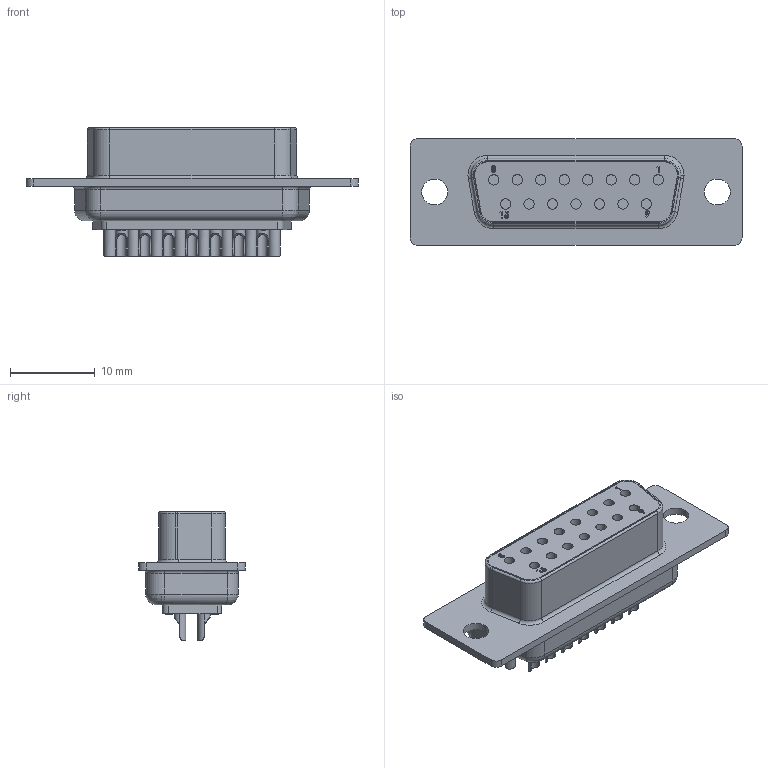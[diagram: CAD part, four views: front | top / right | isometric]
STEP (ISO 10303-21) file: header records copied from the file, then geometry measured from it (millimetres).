
FILE_DESCRIPTION(('FreeCAD Model'),'2;1');
FILE_NAME('C:/Users/Metaltex-99/Desktop/DBSF-15.stp', '2020-12-23T08:14:14',('Engenharia Metaltex'),('Metaltex'), 'Open CASCADE STEP processor 7.3','FreeCAD','Unknown');
FILE_SCHEMA(('AUTOMOTIVE_DESIGN { 1 0 10303 214 1 1 1 1 }'));
Length unit declared in the file: millimetre
Products named in the file (1): DBSF-15
Bounding box: 39.15 x 12.6 x 15.27 mm (x, y, z)
Volume: 2744.7 mm3; surface area: 3133.8 mm2
Topology: 1 solids, 1 shells, 483 faces, 1172 edges, 750 vertices
Faces by surface type: cylinder 210, plane 189, bspline 64, torus 15, revolution 5
Entity records: 40482 total; most frequent: CARTESIAN_POINT 18154, DIRECTION 3734, ORIENTED_EDGE 2344, PCURVE 2344, DEFINITIONAL_REPRESENTATION 2344, LINE 2146, VECTOR 2146, EDGE_CURVE 1172
